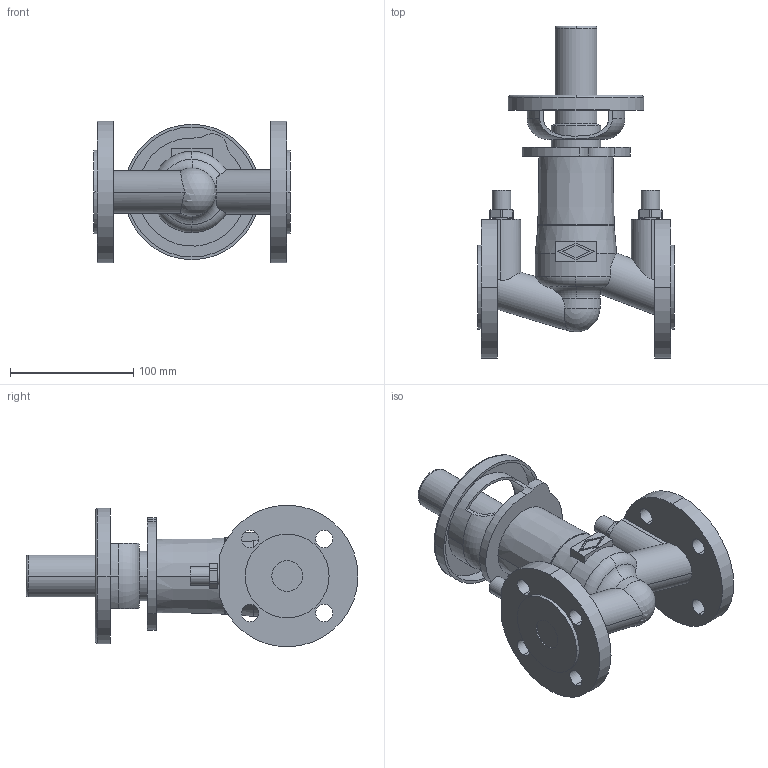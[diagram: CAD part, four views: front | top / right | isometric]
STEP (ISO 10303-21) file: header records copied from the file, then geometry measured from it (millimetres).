
FILE_DESCRIPTION( ( '' ), '1' );
FILE_NAME( 'F:/DE-SHS/TB/OR/04-Sonstiges/daten/files_3d/12020/c000000211.stp', '2015-04-28T06:36:14', ( '' ), ( '' ), ' ', ' ', ' ' );
FILE_SCHEMA( ( 'CONFIG_CONTROL_DESIGN' ) );
Length unit declared in the file: millimetre
Products named in the file (1): 1
Bounding box: 160 x 269.7 x 115 mm (x, y, z)
Volume: 947170 mm3; surface area: 145213.5 mm2
Topology: 1 solids, 1 shells, 165 faces, 439 edges, 291 vertices
Faces by surface type: cylinder 81, plane 61, torus 16, cone 6, sphere 1
Entity records: 6265 total; most frequent: CARTESIAN_POINT 1916, DIRECTION 957, ORIENTED_EDGE 874, EDGE_CURVE 437, AXIS2_PLACEMENT_3D 384, VERTEX_POINT 291, CIRCLE 214, EDGE_LOOP 202
